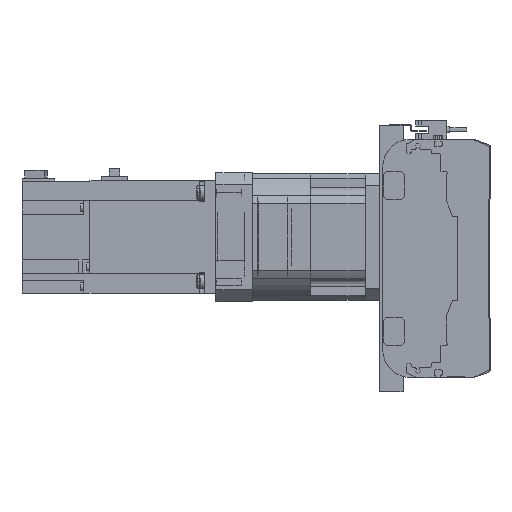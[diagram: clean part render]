
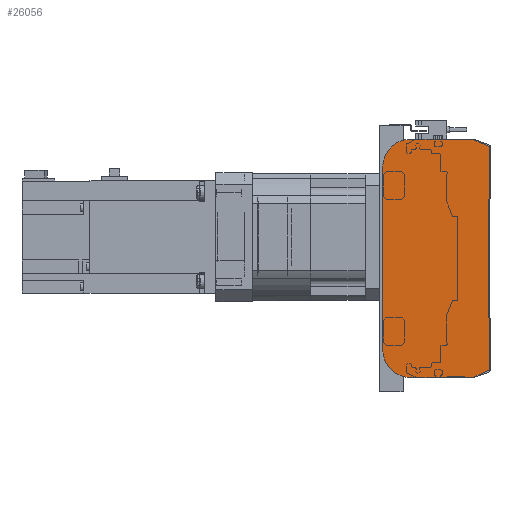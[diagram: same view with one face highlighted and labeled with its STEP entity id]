
A CAD part, left-side view. The second image highlights one B-rep face of the part: STEP entity #26056.
In plain terms, the highlighted planar face has unit normal (-1, 0, 0).
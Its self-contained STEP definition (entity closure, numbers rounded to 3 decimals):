
#2036=CIRCLE('',#28505,2.);
#2037=CIRCLE('',#28508,2.);
#2038=CIRCLE('',#28511,20.);
#2039=CIRCLE('',#28514,20.);
#7477=ORIENTED_EDGE('',*,*,#12513,.F.);
#7478=ORIENTED_EDGE('',*,*,#12591,.F.);
#7479=ORIENTED_EDGE('',*,*,#12589,.F.);
#7480=ORIENTED_EDGE('',*,*,#12587,.F.);
#7481=ORIENTED_EDGE('',*,*,#12275,.F.);
#7482=ORIENTED_EDGE('',*,*,#12586,.F.);
#7483=ORIENTED_EDGE('',*,*,#12584,.F.);
#7484=ORIENTED_EDGE('',*,*,#12582,.F.);
#7485=ORIENTED_EDGE('',*,*,#12580,.F.);
#7486=ORIENTED_EDGE('',*,*,#12578,.F.);
#12275=EDGE_CURVE('',#15139,#15140,#17339,.T.);
#12513=EDGE_CURVE('',#15211,#15212,#17453,.T.);
#12578=EDGE_CURVE('',#15212,#15253,#17498,.T.);
#12580=EDGE_CURVE('',#15253,#15254,#2036,.T.);
#12582=EDGE_CURVE('',#15254,#15255,#17501,.T.);
#12584=EDGE_CURVE('',#15255,#15256,#2037,.T.);
#12586=EDGE_CURVE('',#15256,#15139,#17504,.T.);
#12587=EDGE_CURVE('',#15140,#15257,#2038,.T.);
#12589=EDGE_CURVE('',#15257,#15258,#17506,.T.);
#12591=EDGE_CURVE('',#15258,#15211,#2039,.T.);
#15139=VERTEX_POINT('',#44079);
#15140=VERTEX_POINT('',#44081);
#15211=VERTEX_POINT('',#44442);
#15212=VERTEX_POINT('',#44444);
#15253=VERTEX_POINT('',#44574);
#15254=VERTEX_POINT('',#44578);
#15255=VERTEX_POINT('',#44582);
#15256=VERTEX_POINT('',#44586);
#15257=VERTEX_POINT('',#44592);
#15258=VERTEX_POINT('',#44596);
#17339=LINE('',#44080,#19478);
#17453=LINE('',#44443,#19592);
#17498=LINE('',#44573,#19637);
#17501=LINE('',#44581,#19640);
#17504=LINE('',#44589,#19643);
#17506=LINE('',#44595,#19645);
#19478=VECTOR('',#34505,1000.);
#19592=VECTOR('',#34973,1000.);
#19637=VECTOR('',#35106,1000.);
#19640=VECTOR('',#35115,1000.);
#19643=VECTOR('',#35124,1000.);
#19645=VECTOR('',#35132,1000.);
#21360=EDGE_LOOP('',(#7477,#7478,#7479,#7480,#7481,#7482,#7483,#7484,#7485,
#7486));
#23507=FACE_BOUND('',#21360,.T.);
#24774=PLANE('',#28516);
#26056=ADVANCED_FACE('',(#23507),#24774,.F.);
#28505=AXIS2_PLACEMENT_3D('',#44577,#35110,#35111);
#28508=AXIS2_PLACEMENT_3D('',#44585,#35119,#35120);
#28511=AXIS2_PLACEMENT_3D('',#44591,#35127,#35128);
#28514=AXIS2_PLACEMENT_3D('',#44599,#35136,#35137);
#28516=AXIS2_PLACEMENT_3D('',#44601,#35140,#35141);
#34505=DIRECTION('',(0.,1.,0.));
#34973=DIRECTION('',(0.,-1.,0.));
#35106=DIRECTION('',(0.,-0.913,-0.408));
#35110=DIRECTION('',(1.,0.,0.));
#35111=DIRECTION('',(0.,0.,-1.));
#35115=DIRECTION('',(0.,0.,-1.));
#35119=DIRECTION('',(1.,0.,0.));
#35120=DIRECTION('',(0.,0.,-1.));
#35124=DIRECTION('',(0.,0.913,-0.408));
#35127=DIRECTION('',(1.,0.,0.));
#35128=DIRECTION('',(0.,0.,-1.));
#35132=DIRECTION('',(0.,0.,1.));
#35136=DIRECTION('',(1.,0.,0.));
#35137=DIRECTION('',(0.,0.,-1.));
#35140=DIRECTION('',(1.,0.,0.));
#35141=DIRECTION('',(0.,0.,-1.));
#44079=CARTESIAN_POINT('',(0.,12.33,-85.));
#44080=CARTESIAN_POINT('',(0.,12.33,-85.));
#44081=CARTESIAN_POINT('',(0.,56.5,-85.));
#44442=CARTESIAN_POINT('',(0.,56.5,85.));
#44443=CARTESIAN_POINT('',(0.,56.5,85.));
#44444=CARTESIAN_POINT('',(0.,12.33,85.));
#44573=CARTESIAN_POINT('',(0.,12.33,85.));
#44574=CARTESIAN_POINT('',(0.,1.684,80.239));
#44577=CARTESIAN_POINT('',(0.,2.5,78.413));
#44578=CARTESIAN_POINT('',(0.,0.5,78.413));
#44581=CARTESIAN_POINT('',(0.,0.5,78.413));
#44582=CARTESIAN_POINT('',(0.,0.5,-78.413));
#44585=CARTESIAN_POINT('',(0.,2.5,-78.413));
#44586=CARTESIAN_POINT('',(0.,1.684,-80.239));
#44589=CARTESIAN_POINT('',(0.,1.684,-80.239));
#44591=CARTESIAN_POINT('',(0.,56.5,-65.));
#44592=CARTESIAN_POINT('',(0.,76.5,-65.));
#44595=CARTESIAN_POINT('',(0.,76.5,-65.));
#44596=CARTESIAN_POINT('',(0.,76.5,65.));
#44599=CARTESIAN_POINT('',(0.,56.5,65.));
#44601=CARTESIAN_POINT('',(0.,2.5,78.413));
